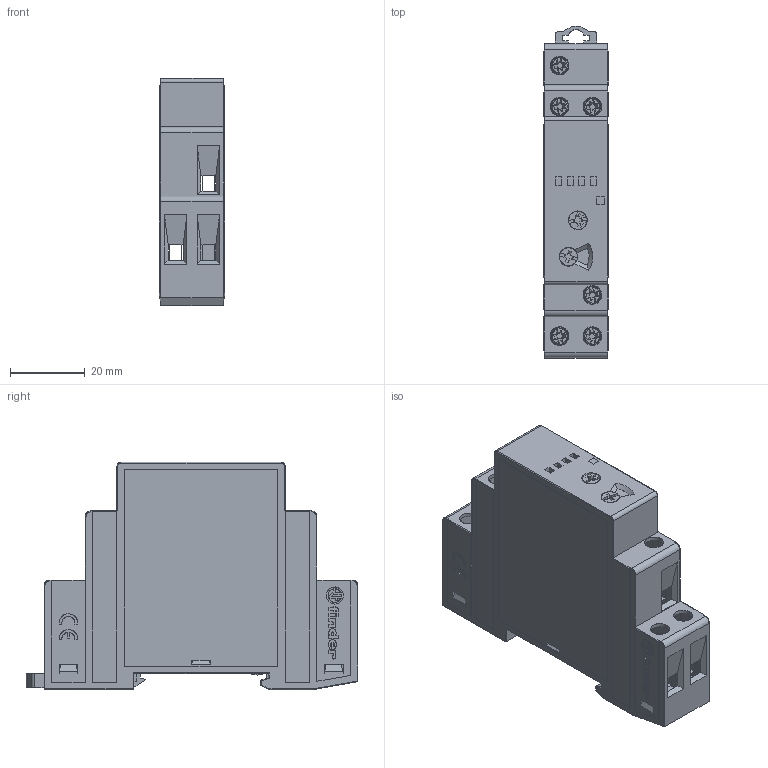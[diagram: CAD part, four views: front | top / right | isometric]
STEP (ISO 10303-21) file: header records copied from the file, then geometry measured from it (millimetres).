
FILE_DESCRIPTION(('STEP AP214'),'2;1');
FILE_NAME('8041---catalogo.stp','2011-01-27T12:25:30',(''),(''),'2007.1.106','THINKDESIGN','');
FILE_SCHEMA(('AUTOMOTIVE_DESIGN'));
Products named in the file (1): None
Bounding box: 17.5 x 88.85 x 60.8 mm (x, y, z)
Surface area: 15039 mm2 (no closed solid volume)
Topology: 0 solids, 0 shells, 858 faces, 4733 edges, 4722 vertices
Faces by surface type: plane 654, bspline 103, cylinder 101
Full cylindrical faces by diameter (mm): 5 x7
Entity records: 50613 total; most frequent: CARTESIAN_POINT 16552, DIRECTION 5738, COMPOSITE_CURVE_SEGMENT 4733, TRIMMED_CURVE 4022, VECTOR 3830, LINE 3830, AXIS2_PLACEMENT_3D 954, OUTER_BOUNDARY_CURVE 858
